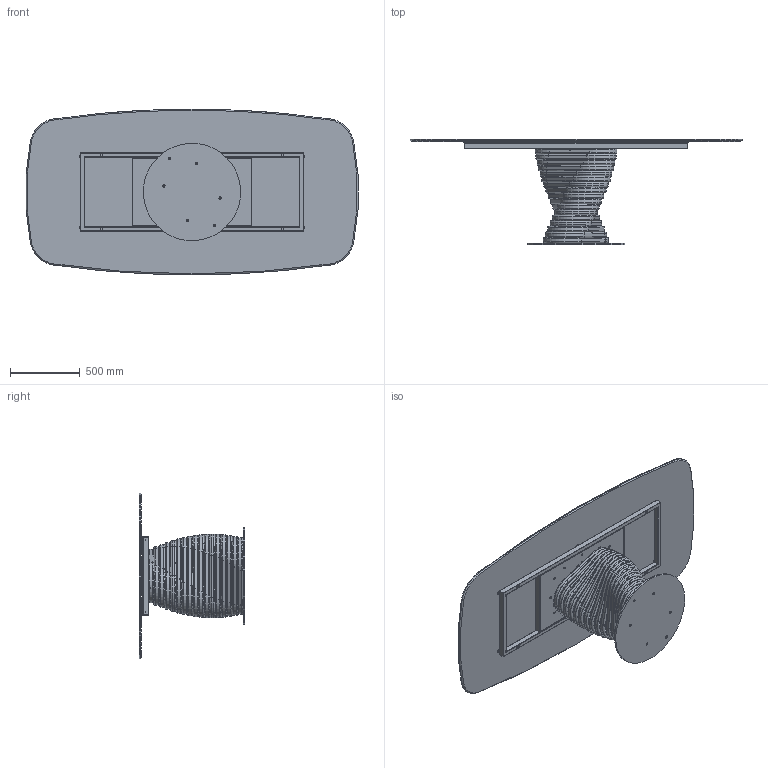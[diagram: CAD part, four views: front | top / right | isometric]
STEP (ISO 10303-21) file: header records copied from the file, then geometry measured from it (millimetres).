
FILE_DESCRIPTION (( 'STEP AP203' ), '1' );
FILE_NAME ('RO42C.STEP', '2024-08-07T13:36:22', ( '' ), ( '' ), 'SwSTEP 2.0', 'SolidWorks 2022', '' );
FILE_SCHEMA (( 'CONFIG_CONTROL_DESIGN' ));
Length unit declared in the file: millimetre
Products named in the file (15): RO42C; K4XCMXX-00-Piani Sagomati in ceramica_2390 x 1190; 434070-00-PIEDINO TPV GOMMA NERO D. 30x8max18_filo estetico; TTAV01_01-05-TELAIO UNIVERSALE X TAVOLI 180 240cm; ROBX00000MED-00-Anello rotolo MEDIO_Default<A macchina>; ROBX00000INF-00-Anello rotolo INFERIORE_Default<A macchina>; ROB200000-00-PIASTRA BASE_Ø70cm; TTAV01-05-TELAIO UNIVERSALE X TAVOLI 180 240cm; COLLO TELAIO UNIVERSALE TTAV01 CON FERRAMENTA_MTG TOP CRISTALLO VERNICIATO-CERAMICA; ROBX00000SUP-00-Anello rotolo SUPERIORE_Default<A macchina>; ROBX00000-00-ROTOLO BASE 17 ANELLI; M8xXXmm_M8x20mm; M8xXXmm_hex_M8X20mm; TTAV01_02-05-VASSOIO IRRIGIDIMENTO TELAIO UNIVERSALE; rondella M8_8X24
Assembly tree (44 placements, depth 4):
  RO42C
    ROB200000-00-PIASTRA BASE_Ø70cm
    ROBX00000-00-ROTOLO BASE 17 ANELLI
      ROBX00000INF-00-Anello rotolo INFERIORE_Default<A macchina>
      ROBX00000MED-00-Anello rotolo MEDIO_Default<A macchina>  x15
      ROBX00000SUP-00-Anello rotolo SUPERIORE_Default<A macchina>
    M8xXXmm_hex_M8X20mm  x6
    COLLO TELAIO UNIVERSALE TTAV01 CON FERRAMENTA_MTG TOP CRISTALLO VERNICIATO-CERAMICA
      TTAV01-05-TELAIO UNIVERSALE X TAVOLI 180 240cm
        TTAV01_02-05-VASSOIO IRRIGIDIMENTO TELAIO UNIVERSALE
        TTAV01_01-05-TELAIO UNIVERSALE X TAVOLI 180 240cm
      434070-00-PIEDINO TPV GOMMA NERO D. 30x8max18_filo estetico  x6
    rondella M8_8X24  x4
    M8xXXmm_M8x20mm  x4
    K4XCMXX-00-Piani Sagomati in ceramica_2390 x 1190
Bounding box: 2382.15 x 758 x 1190 mm (x, y, z)
Volume: 54952979.6 mm3; surface area: 18416657.2 mm2
Topology: 99 solids, 99 shells, 1517 faces, 3597 edges, 2252 vertices
Faces by surface type: plane 616, cylinder 564, torus 220, cone 109, sphere 8
Entity records: 21325 total; most frequent: CARTESIAN_POINT 4799, DIRECTION 3092, ORIENTED_EDGE 2834, EDGE_CURVE 1417, AXIS2_PLACEMENT_3D 1166, VERTEX_POINT 897, LINE 760, VECTOR 760
